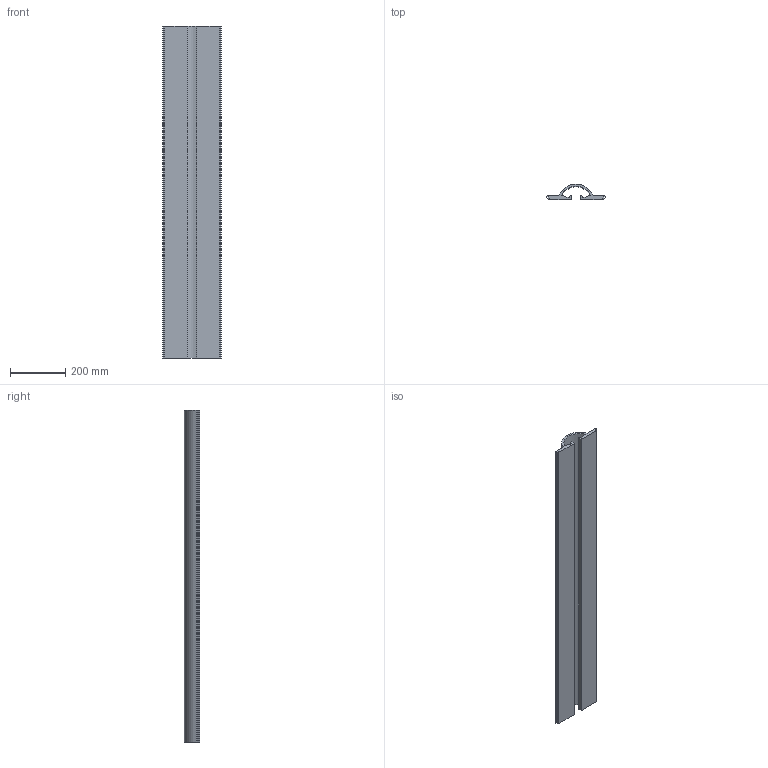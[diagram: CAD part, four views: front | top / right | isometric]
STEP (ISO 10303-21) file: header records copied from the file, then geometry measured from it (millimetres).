
FILE_DESCRIPTION (( 'STEP AP214' ), '1' );
FILE_NAME ('7006.STEP', '2017-10-12T12:51:56', ( '' ), ( '' ), 'SwSTEP 2.0', 'SolidWorks 2016', '' );
FILE_SCHEMA (( 'AUTOMOTIVE_DESIGN' ));
Length unit declared in the file: millimetre
Products named in the file (1): 7006
Bounding box: 210 x 55 x 1200 mm (x, y, z)
Volume: 3770104.3 mm3; surface area: 843375.9 mm2
Topology: 1 solids, 1 shells, 28 faces, 78 edges, 52 vertices
Faces by surface type: plane 26, cylinder 2
Entity records: 920 total; most frequent: CARTESIAN_POINT 159, ORIENTED_EDGE 156, DIRECTION 140, EDGE_CURVE 78, VECTOR 74, LINE 74, VERTEX_POINT 52, AXIS2_PLACEMENT_3D 33
